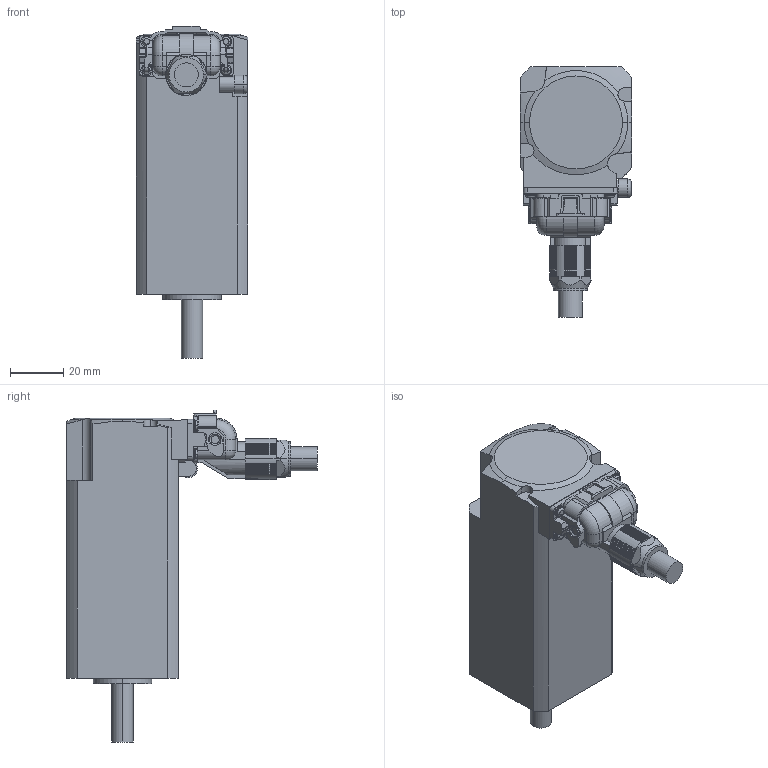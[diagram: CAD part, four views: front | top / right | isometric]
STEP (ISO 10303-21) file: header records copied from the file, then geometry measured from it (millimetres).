
FILE_DESCRIPTION (( 'STEP AP203' ), '1' );
FILE_NAME ('B1547_V.step', '2025-06-23T06:37:19', ( '' ), ( '' ), 'SwSTEP 2.0', 'SolidWorks 2023', '' );
FILE_SCHEMA (( 'CONFIG_CONTROL_DESIGN' ));
Length unit declared in the file: millimetre
Products named in the file (1): B1547_V
Bounding box: 42 x 94.4 x 125.05 mm (x, y, z)
Volume: 182302.6 mm3; surface area: 24842.5 mm2
Topology: 1 solids, 1 shells, 556 faces, 1549 edges, 1001 vertices
Faces by surface type: plane 323, cylinder 197, torus 18, cone 16, sphere 2
Entity records: 18039 total; most frequent: CARTESIAN_POINT 3452, ORIENTED_EDGE 3078, DIRECTION 3075, EDGE_CURVE 1539, AXIS2_PLACEMENT_3D 1040, VERTEX_POINT 1001, LINE 995, VECTOR 995
